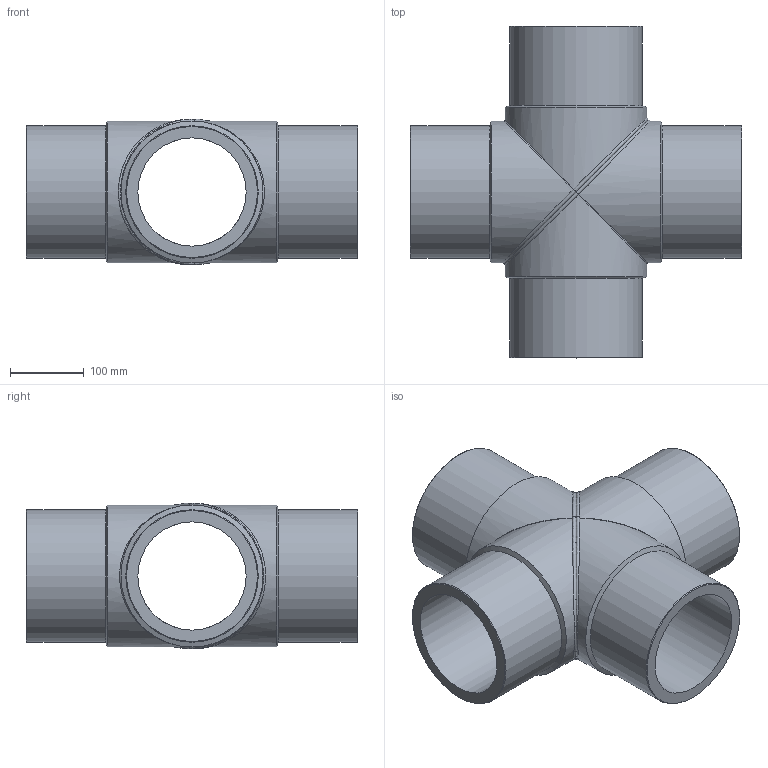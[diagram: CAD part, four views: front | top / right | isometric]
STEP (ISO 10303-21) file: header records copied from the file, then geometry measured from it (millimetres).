
FILE_DESCRIPTION(/* description */ ('Unknown'),/* implementation_level */ '2;1');
FILE_NAME(/* name */ 'CRP180C',/* time_stamp */ '2022-07-07T17:05:31+02:00',/* author */ ('Unknown'),/* organization */ ('Unknown'),/* preprocessor_version */ 'ST-DEVELOPER v18.102',/* originating_system */ 'Solid Edge',/* authorisation */ 'Unknown');
FILE_SCHEMA (('AUTOMOTIVE_DESIGN {1 0 10303 214 3 1 1}'));
Length unit declared in the file: millimetre
Products named in the file (3): CRP180C; CRP180C_mir
Assembly tree (2 placements, depth 2):
  CRP180C
    CRP180C
    CRP180C_mir
Bounding box: 451 x 451 x 197.99 mm (x, y, z)
Volume: 6711825.7 mm3; surface area: 789752 mm2
Topology: 2 solids, 2 shells, 32 faces, 88 edges, 58 vertices
Faces by surface type: cylinder 12, cone 8, plane 6, bspline 6
Full cylindrical faces by diameter (mm): 147.2 x4, 180 x4, 193 x4
Entity records: 3235 total; most frequent: CARTESIAN_POINT 2517, DIRECTION 126, ORIENTED_EDGE 116, AXIS2_PLACEMENT_3D 63, EDGE_CURVE 58, EDGE_LOOP 58, FACE_BOUND 58, VERTEX_POINT 48
